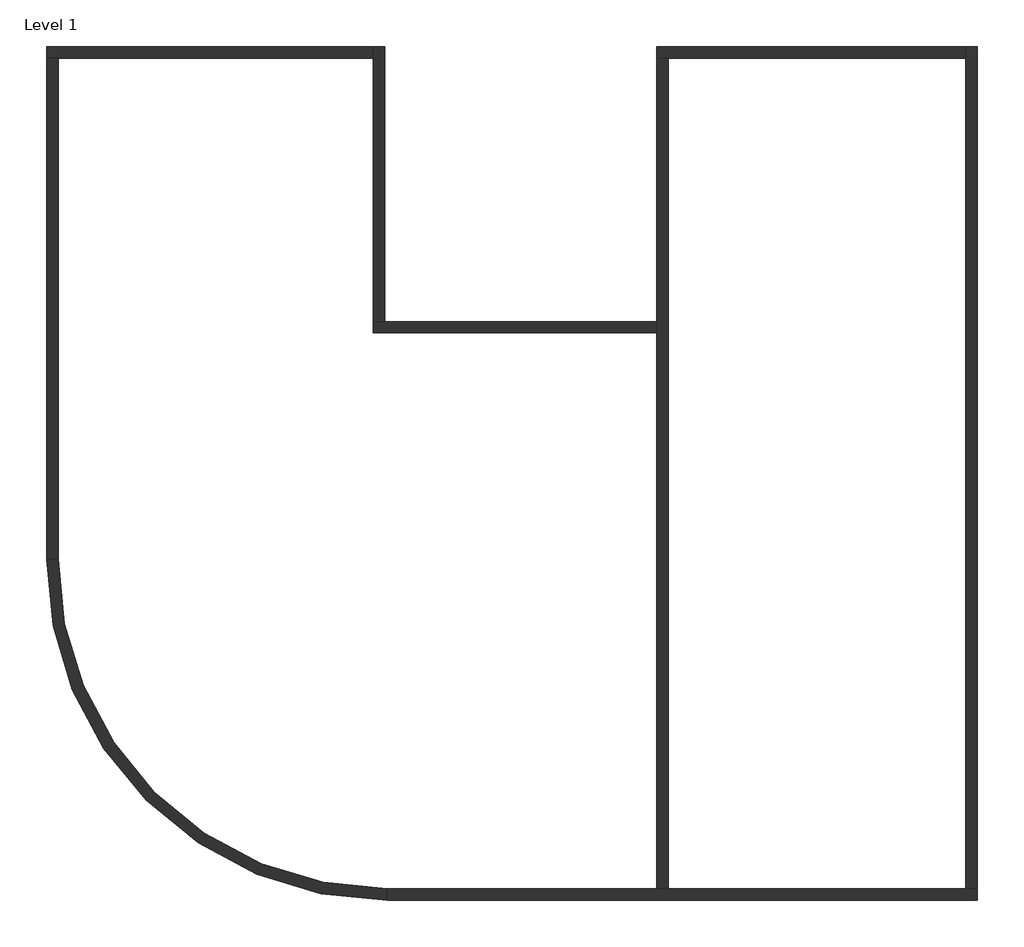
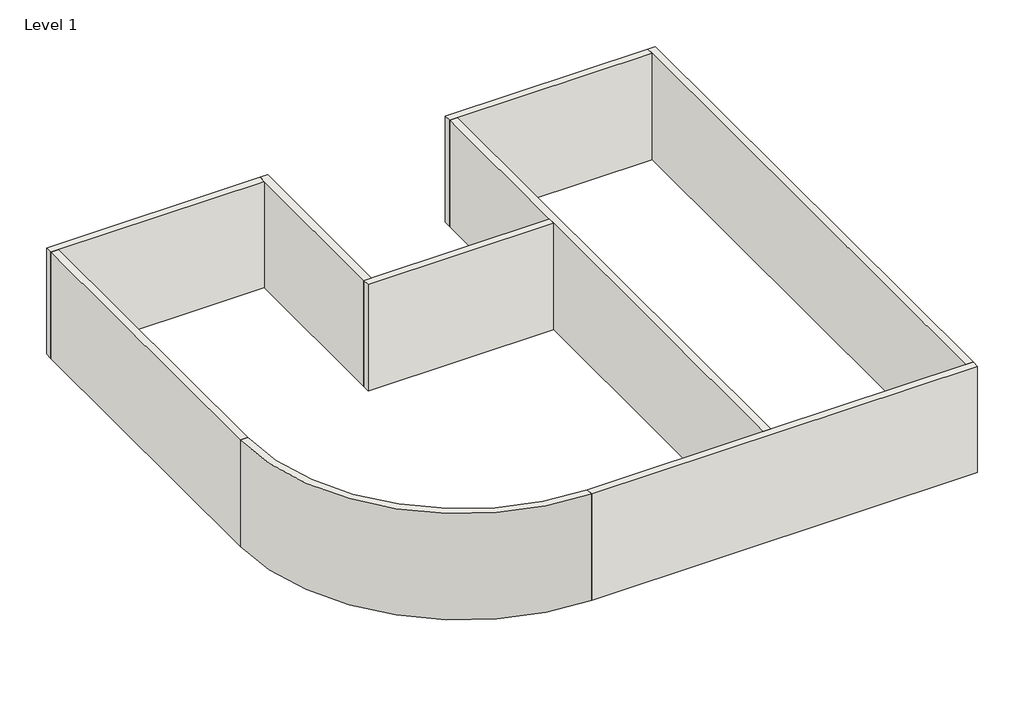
# One storey: 9 walls.
"""IFC4 building model written with IfcOpenShell, lengths in millimetres."""

import ifcopenshell
import ifcopenshell.guid

model = None  # the IFC model being written
_history = None  # IfcOwnerHistory: only IFC2X3 demands one
_inside = {}  # id of a spatial element -> (the spatial element, [elements in it])
_under = {}  # id of a project, library or spatial element -> (it, [spatial elements below it])
_declared = {}  # id of a project -> (the project, [libraries it declares])
_typed = {}  # id of a type object -> (the type object, [elements of that type])
_made_of = {}  # id of a material, layer set ... -> (it, [elements and type objects made of it])


def new_model(schema):
    """Start an empty IFC model of exactly this schema.

    Asked for "IFC4X3", IfcOpenShell would pick the latest addendum, in which some entities
    have other attributes; the version numbers below select the first issue.
    IFC2X3 requires an IfcOwnerHistory on every rooted entity: one is made here for all.
    """
    global model, _history
    if schema == "IFC4X3":
        model = ifcopenshell.file(schema_version=(4, 3, 0, 0))
    else:
        model = ifcopenshell.file(schema=schema)
    _inside.clear()
    _under.clear()
    _declared.clear()
    _typed.clear()
    _made_of.clear()
    _history = None
    if model.schema == "IFC2X3":
        org = make("IfcOrganization", Name="unknown")
        user = make(
            "IfcPersonAndOrganization",
            ThePerson=make("IfcPerson", FamilyName="unknown"),
            TheOrganization=org,
        )
        app = make(
            "IfcApplication",
            ApplicationDeveloper=org,
            Version="unknown",
            ApplicationFullName="unknown",
            ApplicationIdentifier="unknown",
        )
        _history = make(
            "IfcOwnerHistory",
            OwningUser=user,
            OwningApplication=app,
            ChangeAction="ADDED",
            CreationDate=0,
        )
    return model


def make(cls, **values):
    """One entity of the class cls with the attributes given. An attribute that is None is left unset."""
    return model.create_entity(
        cls, **{name: value for name, value in values.items() if value is not None}
    )


def rooted(cls, **values):
    """An entity with a GlobalId (a new one), such as an element, a storey or a relation."""
    return make(cls, GlobalId=ifcopenshell.guid.new(), OwnerHistory=_history, **values)


def si_unit(unit_type, name, prefix=None):
    """IfcSIUnit, for example si_unit("LENGTHUNIT", "METRE", prefix="MILLI")."""
    return make("IfcSIUnit", UnitType=unit_type, Prefix=prefix, Name=name)


def assignment(units):
    """IfcUnitAssignment: the units of a project."""
    return None if units is None else make("IfcUnitAssignment", Units=units)


def point(xyz):
    """IfcCartesianPoint."""
    return None if xyz is None else make("IfcCartesianPoint", Coordinates=xyz)


def direction(xyz):
    """IfcDirection."""
    return None if xyz is None else make("IfcDirection", DirectionRatios=xyz)


def frame(location, z_axis=None, x_axis=None):
    """IfcAxis2Placement3D, a coordinate frame: its origin and axes. An axis left out is left unset."""
    return make(
        "IfcAxis2Placement3D",
        Location=point(location),
        Axis=direction(z_axis),
        RefDirection=direction(x_axis),
    )


def frame_2d(location, x_axis=None):
    """IfcAxis2Placement2D, a coordinate frame in the plane: its origin and x axis."""
    return make(
        "IfcAxis2Placement2D", Location=point(location), RefDirection=direction(x_axis)
    )


def origin():
    """The frame at (0, 0, 0) with its axes left unset."""
    return frame((0.0, 0.0, 0.0))


def origin_with_axes():
    """The frame at (0, 0, 0) with the z axis (0, 0, 1) and the x axis (1, 0, 0) written out."""
    return frame((0.0, 0.0, 0.0), z_axis=(0.0, 0.0, 1.0), x_axis=(1.0, 0.0, 0.0))


def place(relative_to, where):
    """IfcLocalPlacement: puts the frame where relative to a parent placement (None: the world)."""
    return make(
        "IfcLocalPlacement", PlacementRelTo=relative_to, RelativePlacement=where
    )


def context(
    kind, dimensions, precision=None, world=None, true_north=None, identifier=None
):
    """IfcGeometricRepresentationContext, for example the 3D "Model" context."""
    return make(
        "IfcGeometricRepresentationContext",
        ContextIdentifier=identifier,
        ContextType=kind,
        CoordinateSpaceDimension=dimensions,
        Precision=precision,
        WorldCoordinateSystem=world,
        TrueNorth=true_north,
    )


def project(units=None, contexts=None):
    """IfcProject with its units and contexts."""
    return rooted(
        "IfcProject",
        Name="project",
        RepresentationContexts=contexts,
        UnitsInContext=assignment(units),
    )


def spatial(cls, under=None, at=None, **own):
    """A site, building, storey or space (cls), placed at a placement, below another one or the project."""
    s = rooted(cls, ObjectPlacement=at, **own)
    if under is not None:
        _under.setdefault(under.id(), (under, []))[1].append(s)
    return s


def polyline(points):
    """IfcPolyline through the points."""
    return make("IfcPolyline", Points=[point(p) for p in points])


def circle_curve(where, radius):
    """IfcCircle in the frame where."""
    return make("IfcCircle", Position=where, Radius=radius)


def trimmed(basis, trim1, trim2, sense, master):
    """IfcTrimmedCurve: the piece of a basis curve between two trims."""
    return make(
        "IfcTrimmedCurve",
        BasisCurve=basis,
        Trim1=trim1,
        Trim2=trim2,
        SenseAgreement=sense,
        MasterRepresentation=master,
    )


def segment(curve, same_sense, transition):
    """IfcCompositeCurveSegment."""
    return make(
        "IfcCompositeCurveSegment",
        Transition=transition,
        SameSense=same_sense,
        ParentCurve=curve,
    )


def composite_curve(segments, self_intersect=None):
    """IfcCompositeCurve: segments joined end to end."""
    return make("IfcCompositeCurve", Segments=segments, SelfIntersect=self_intersect)


def outline(outer, holes=None, kind="AREA"):
    """IfcArbitraryClosedProfileDef: a profile drawn as a closed curve; with holes, ...WithVoids."""
    if holes is None:
        return make("IfcArbitraryClosedProfileDef", ProfileType=kind, OuterCurve=outer)
    return make(
        "IfcArbitraryProfileDefWithVoids",
        ProfileType=kind,
        OuterCurve=outer,
        InnerCurves=holes,
    )


def extrude(swept, where, along, depth):
    """IfcExtrudedAreaSolid: the profile swept, set in the frame where, extruded along a direction by depth."""
    return make(
        "IfcExtrudedAreaSolid",
        SweptArea=swept,
        Position=where,
        ExtrudedDirection=direction(along),
        Depth=depth,
    )


def faces_of(points, faces, orient=None, outer=None):
    """IfcFace entities. A face is a list of loops; a loop is a list of indices into points, from 0.

    orient and outer hold one flag for each loop. By default every Orientation is true, the
    first loop of a face is its IfcFaceOuterBound and the others are IfcFaceBound.
    """
    made = []
    for i, loops in enumerate(faces):
        bounds = []
        for j, loop in enumerate(loops):
            is_outer = j == 0 if outer is None else outer[i][j]
            bounds.append(
                make(
                    "IfcFaceOuterBound" if is_outer else "IfcFaceBound",
                    Bound=make("IfcPolyLoop", Polygon=[points[k] for k in loop]),
                    Orientation=True if orient is None else orient[i][j],
                )
            )
        made.append(make("IfcFace", Bounds=bounds))
    return made


def faceted_brep(points, faces, orient=None, outer=None, voids=None):
    """IfcFacetedBrep: a solid bounded by flat faces; with voids (closed shells), ...WithVoids."""
    shared = [point(p) for p in points]
    hull = make("IfcClosedShell", CfsFaces=faces_of(shared, faces, orient, outer))
    if voids is None:
        return make("IfcFacetedBrep", Outer=hull)
    return make(
        "IfcFacetedBrepWithVoids",
        Outer=hull,
        Voids=[
            make(cls, CfsFaces=faces_of(shared, fs, o, b)) for cls, fs, o, b in voids
        ],
    )


def shape(context_of_items, identifier, shape_type, items):
    """IfcShapeRepresentation: the items that make up one representation, for example the "Body"."""
    return make(
        "IfcShapeRepresentation",
        ContextOfItems=context_of_items,
        RepresentationIdentifier=identifier,
        RepresentationType=shape_type,
        Items=items,
    )


def made_of(thing, what):
    """Note that an element or type object is made of a material, layer set ...; save() writes the relation."""
    if what is not None:
        _made_of.setdefault(what.id(), (what, []))[1].append(thing)
    return thing


def element(
    cls,
    number,
    at=None,
    inside=None,
    cuts=None,
    type_object=None,
    material=None,
    context=None,
    identifier="Body",
    shape_type=None,
    held_by="IfcProductDefinitionShape",
    body=None,
    shapes=None,
    **own,
):
    """One element of the class cls, such as IfcWall. Its Tag is "e" and its number.

    at: its placement. inside: the storey or other place that contains it. cuts: it is an
    opening in that element (IfcRelVoidsElement). A single representation is given by context,
    identifier, shape_type and body (its items); several are given by shapes. held_by: the class
    of the entity that holds the representations. save() writes the other relations.
    """
    e = rooted(cls, Tag="e%d" % number, ObjectPlacement=at, **own)
    if body is not None:
        shapes = [shape(context, identifier, shape_type, body)]
    if shapes is not None:
        e.Representation = make(held_by, Representations=shapes)
    if inside is not None:
        _inside.setdefault(inside.id(), (inside, []))[1].append(e)
    if cuts is not None:
        rooted(
            "IfcRelVoidsElement", RelatingBuildingElement=cuts, RelatedOpeningElement=e
        )
    if type_object is not None:
        _typed.setdefault(type_object.id(), (type_object, []))[1].append(e)
    return made_of(e, material)


def aggregate(whole, parts):
    """IfcRelAggregates: a whole, such as a stair, and the parts it consists of."""
    return rooted("IfcRelAggregates", RelatingObject=whole, RelatedObjects=parts)


def save(model, path):
    """Write the relations noted so far, then the file.

    IfcRelAggregates (storeys below a building ...), IfcRelContainedInSpatialStructure (elements
    in a storey), IfcRelDefinesByType, IfcRelAssociatesMaterial and IfcRelDeclares: one each for
    every whole, place, type object, material and project.
    """
    for whole, parts in _under.values():
        aggregate(whole, parts)
    for where, things in _inside.values():
        rooted(
            "IfcRelContainedInSpatialStructure",
            RelatedElements=things,
            RelatingStructure=where,
        )
    for kind, things in _typed.values():
        rooted("IfcRelDefinesByType", RelatedObjects=things, RelatingType=kind)
    for what, things in _made_of.values():
        rooted("IfcRelAssociatesMaterial", RelatedObjects=things, RelatingMaterial=what)
    for by, libraries in _declared.values():
        rooted("IfcRelDeclares", RelatingContext=by, RelatedDefinitions=libraries)
    model.write(path)


model = new_model("IFC4")

# Units and contexts
model_context = context("Model", 3, world=origin())
ifc_project = project(units=[si_unit("LENGTHUNIT", "METRE", prefix="MILLI")], contexts=[model_context])

# Site, building, storey
site = spatial("IfcSite", under=ifc_project)
building = spatial("IfcBuilding", under=site)
storey = spatial("IfcBuildingStorey", under=building, Name="Level 1", Elevation=0.0)

# Walls
placement = place(None, origin())
element("IfcWall", 1, ObjectType="Generic - 8\"", at=placement, inside=storey, context=model_context, shape_type="Brep", body=[
    faceted_brep([(384.0018872, 13406.8407769, 0.0), (587.2018872, 13406.8407769, 0.0), (5870.4018872, 13406.8407769, 0.0), (5870.4018872, 13406.8407769, 3048.0), (587.2018872, 13406.8407769, 3048.0), (384.0018872, 13406.8407769, 3048.0), (384.0018872, 13610.0407769, 0.0), (384.0018872, 13610.0407769, 3048.0), (5870.4018872, 13610.0407769, 3048.0), (5870.4018872, 13610.0407769, 0.0)], [[[0, 1, 2, 3, 4, 5]], [[6, 7, 8, 9]], [[2, 1, 0, 6, 9]], [[5, 4, 3, 8, 7]], [[0, 5, 7, 6]], [[3, 2, 9, 8]]]),
])
element("IfcWall", 2, ObjectType="Generic - 8\"", at=placement, inside=storey, context=model_context, shape_type="Brep", body=[
    faceted_brep([(587.2018872, -1325.1592231, 0.0), (587.2018872, 13406.8407769, 0.0), (587.2018872, 13406.8407769, 3048.0), (587.2018872, -1325.1592231, 3048.0), (384.0018872, -1325.1592231, 0.0), (384.0018872, -1325.1592231, 3048.0), (384.0018872, 8530.0407769, 3048.0), (384.0018872, 8733.2407769, 3048.0), (384.0018872, 13406.8407769, 3048.0), (384.0018872, 13406.8407769, 0.0), (384.0018872, 8733.2407769, 0.0), (384.0018872, 8530.0407769, 0.0)], [[[0, 1, 2, 3]], [[4, 5, 6, 7, 8, 9, 10, 11]], [[1, 0, 4, 11, 10, 9]], [[3, 2, 8, 7, 6, 5]], [[0, 3, 5, 4]], [[2, 1, 9, 8]]]),
])
element("IfcWall", 3, ObjectType="Generic - 8\"", at=placement, inside=storey, context=model_context, shape_type="Brep", body=[
    faceted_brep([(6073.6018872, -1325.1592231, 0.0), (5870.4018872, -1325.1592231, 0.0), (587.2018872, -1325.1592231, 0.0), (384.0018872, -1325.1592231, 0.0), (-4391.1981128, -1325.1592231, 0.0), (-4391.1981128, -1325.1592231, 3048.0), (384.0018872, -1325.1592231, 3048.0), (587.2018872, -1325.1592231, 3048.0), (5870.4018872, -1325.1592231, 3048.0), (6073.6018872, -1325.1592231, 3048.0), (6073.6018872, -1528.3592231, 0.0), (6073.6018872, -1528.3592231, 3048.0), (-4391.1981128, -1528.3592231, 3048.0), (-4391.1981128, -1528.3592231, 0.0)], [[[0, 1, 2, 3, 4, 5, 6, 7, 8, 9]], [[10, 11, 12, 13]], [[4, 3, 2, 1, 0, 10, 13]], [[5, 4, 13, 12]], [[9, 8, 7, 6, 5, 12, 11]], [[0, 9, 11, 10]]]),
])
element("IfcWall", 4, ObjectType="Generic - 8\"", at=placement, inside=storey, context=model_context, shape_type="Brep", body=[
    faceted_brep([(5870.4018872, 13610.0407769, 0.0), (5870.4018872, 13406.8407769, 0.0), (5870.4018872, -1325.1592231, 0.0), (5870.4018872, -1325.1592231, 3048.0), (5870.4018872, 13406.8407769, 3048.0), (5870.4018872, 13610.0407769, 3048.0), (6073.6018872, 13610.0407769, 0.0), (6073.6018872, 13610.0407769, 3048.0), (6073.6018872, -1325.1592231, 3048.0), (6073.6018872, -1325.1592231, 0.0)], [[[0, 1, 2, 3, 4, 5]], [[6, 7, 8, 9]], [[2, 1, 0, 6, 9]], [[5, 4, 3, 8, 7]], [[0, 5, 7, 6]], [[3, 2, 9, 8]]]),
])
element("IfcWall", 5, ObjectType="Generic - 8\"", at=placement, inside=storey, context=model_context, shape_type="Brep", body=[
    faceted_brep([(384.0018872, 8733.2407769, 0.0), (-4441.9981128, 8733.2407769, 0.0), (-4645.1981128, 8733.2407769, 0.0), (-4645.1981128, 8733.2407769, 3048.0), (-4441.9981128, 8733.2407769, 3048.0), (384.0018872, 8733.2407769, 3048.0), (384.0018872, 8530.0407769, 0.0), (384.0018872, 8530.0407769, 3048.0), (-4645.1981128, 8530.0407769, 3048.0), (-4645.1981128, 8530.0407769, 0.0)], [[[0, 1, 2, 3, 4, 5]], [[6, 7, 8, 9]], [[2, 1, 0, 6, 9]], [[5, 4, 3, 8, 7]], [[0, 5, 7, 6]], [[3, 2, 9, 8]]]),
])
element("IfcWall", 6, ObjectType="Generic - 8\"", at=placement, inside=storey, context=model_context, shape_type="Brep", body=[
    faceted_brep([(-4441.9981128, 8733.2407769, 0.0), (-4441.9981128, 13610.0407769, 0.0), (-4441.9981128, 13610.0407769, 3048.0), (-4441.9981128, 8733.2407769, 3048.0), (-4645.1981128, 8733.2407769, 0.0), (-4645.1981128, 8733.2407769, 3048.0), (-4645.1981128, 13406.8407769, 3048.0), (-4645.1981128, 13610.0407769, 3048.0), (-4645.1981128, 13610.0407769, 0.0), (-4645.1981128, 13406.8407769, 0.0)], [[[0, 1, 2, 3]], [[4, 5, 6, 7, 8, 9]], [[1, 0, 4, 9, 8]], [[3, 2, 7, 6, 5]], [[0, 3, 5, 4]], [[2, 1, 8, 7]]]),
])
element("IfcWall", 7, ObjectType="Generic - 8\"", at=placement, inside=storey, context=model_context, shape_type="Brep", body=[
    faceted_brep([(-4645.1981128, 13610.0407769, 0.0), (-10436.3981128, 13610.0407769, 0.0), (-10436.3981128, 13610.0407769, 3048.0), (-4645.1981128, 13610.0407769, 3048.0), (-4645.1981128, 13406.8407769, 0.0), (-4645.1981128, 13406.8407769, 3048.0), (-10233.1981128, 13406.8407769, 3048.0), (-10436.3981128, 13406.8407769, 3048.0), (-10436.3981128, 13406.8407769, 0.0), (-10233.1981128, 13406.8407769, 0.0)], [[[0, 1, 2, 3]], [[4, 5, 6, 7, 8, 9]], [[1, 0, 4, 9, 8]], [[3, 2, 7, 6, 5]], [[0, 3, 5, 4]], [[2, 1, 8, 7]]]),
])
element("IfcWall", 8, ObjectType="Generic - 8\"", at=placement, inside=storey, context=model_context, shape_type="SweptSolid", body=[
    extrude(outline(polyline([(-10436.3981128, 4516.8407769), (-10436.3981128, 13406.8407769), (-10233.1981128, 13406.8407769), (-10233.1981128, 4516.8407769), (-10436.3981128, 4516.8407769)])), origin_with_axes(), (0.0, 0.0, 1.0), 3048.0),
])
element("IfcWall", 9, ObjectType="Generic - 8\"", at=placement, inside=storey, context=model_context, shape_type="SweptSolid", body=[
    extrude(outline(composite_curve([segment(polyline([(-4391.1981128, -1325.1592231), (-4391.1981128, -1528.3592231)]), True, "CONTINUOUS"), segment(trimmed(circle_curve(frame_2d((-4391.1981128, 4516.8407769)), 6045.2), [point((-4391.1981128, -1528.3592231))], [point((-10436.3981128, 4516.8407769))], False, "CARTESIAN"), True, "CONTINUOUS"), segment(polyline([(-10436.3981128, 4516.8407769), (-10233.1981128, 4516.8407769)]), True, "CONTINUOUS"), segment(trimmed(circle_curve(frame_2d((-4391.1981128, 4516.8407769)), 5842.0), [point((-10233.1981128, 4516.8407769))], [point((-4391.1981128, -1325.1592231))], True, "CARTESIAN"), True, "CONTINUOUS")], self_intersect=False)), origin_with_axes(), (0.0, 0.0, 1.0), 3048.0),
])

save(model, "model.ifc")
